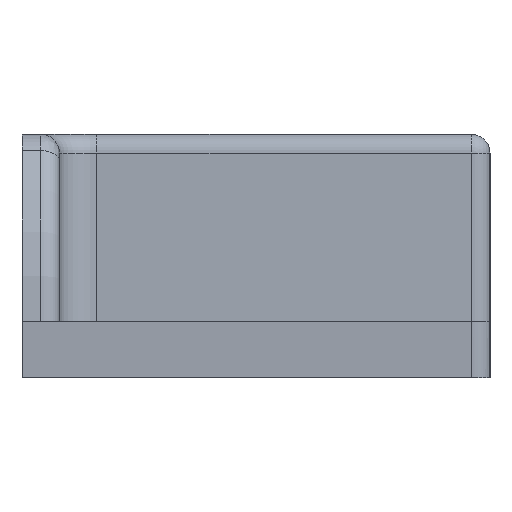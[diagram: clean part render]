
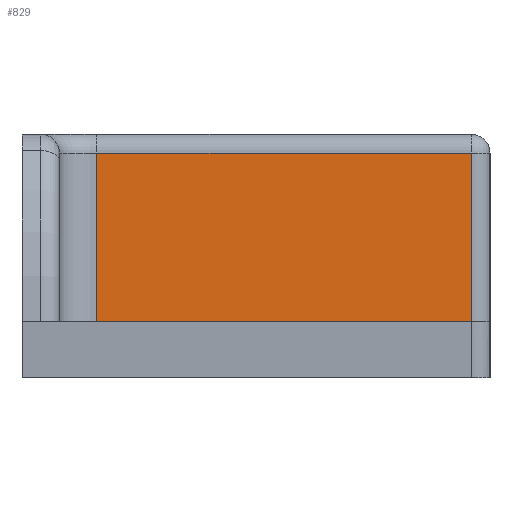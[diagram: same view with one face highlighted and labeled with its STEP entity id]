
A CAD part, left-side view. The second image highlights one B-rep face of the part: STEP entity #829.
In plain terms, the highlighted planar face has unit normal (-1, 0, 0).
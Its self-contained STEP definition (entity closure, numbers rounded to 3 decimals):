
#47=LINE('',#1329,#106);
#48=LINE('',#1334,#107);
#76=LINE('',#1446,#135);
#77=LINE('',#1447,#136);
#106=VECTOR('',#1060,20.);
#107=VECTOR('',#1065,9.);
#135=VECTOR('',#1177,9.);
#136=VECTOR('',#1178,20.);
#156=PLANE('',#931);
#216=FACE_OUTER_BOUND('',#275,.T.);
#275=EDGE_LOOP('',(#693,#694,#695,#696));
#376=VERTEX_POINT('',#1319);
#378=VERTEX_POINT('',#1325);
#381=VERTEX_POINT('',#1333);
#414=VERTEX_POINT('',#1445);
#465=EDGE_CURVE('',#376,#378,#47,.T.);
#467=EDGE_CURVE('',#378,#381,#48,.T.);
#519=EDGE_CURVE('',#414,#376,#76,.T.);
#520=EDGE_CURVE('',#381,#414,#77,.T.);
#693=ORIENTED_EDGE('',*,*,#465,.F.);
#694=ORIENTED_EDGE('',*,*,#519,.F.);
#695=ORIENTED_EDGE('',*,*,#520,.F.);
#696=ORIENTED_EDGE('',*,*,#467,.F.);
#829=ADVANCED_FACE('',(#216),#156,.F.);
#931=AXIS2_PLACEMENT_3D('',#1444,#1175,#1176);
#1060=DIRECTION('',(0.,0.,1.));
#1065=DIRECTION('',(0.,-1.,0.));
#1175=DIRECTION('center_axis',(1.,0.,0.));
#1176=DIRECTION('ref_axis',(0.,0.,-1.));
#1177=DIRECTION('',(0.,1.,0.));
#1178=DIRECTION('',(0.,0.,-1.));
#1319=CARTESIAN_POINT('',(9.872,-1.,4.));
#1325=CARTESIAN_POINT('',(9.872,-1.,24.));
#1329=CARTESIAN_POINT('',(9.872,-1.,12.5));
#1333=CARTESIAN_POINT('',(9.872,-10.,24.));
#1334=CARTESIAN_POINT('',(9.872,-8.347,24.));
#1444=CARTESIAN_POINT('Origin',(9.872,-10.,25.));
#1445=CARTESIAN_POINT('',(9.872,-10.,4.));
#1446=CARTESIAN_POINT('',(9.872,-7.5,4.));
#1447=CARTESIAN_POINT('',(9.872,-10.,25.));
